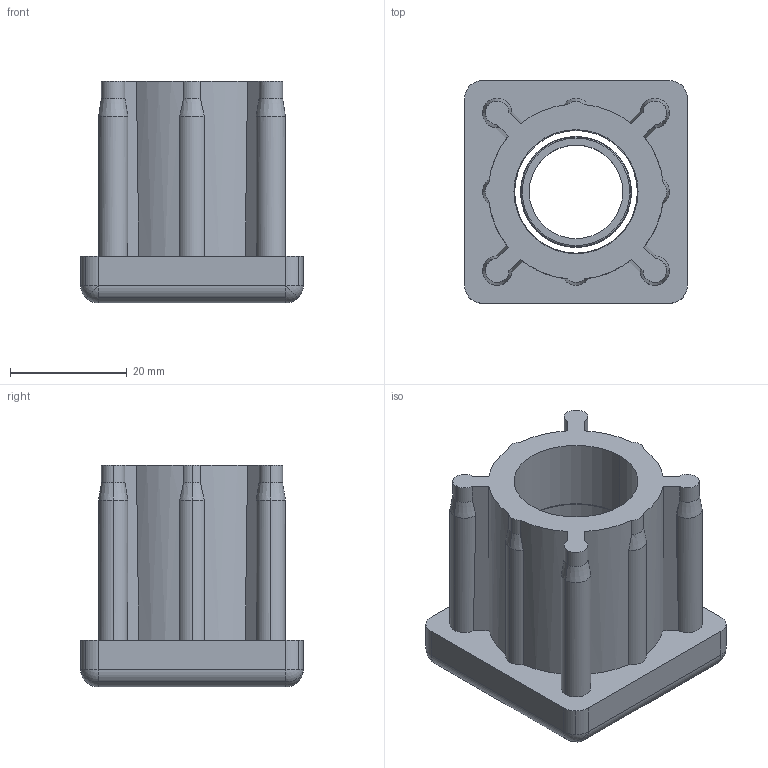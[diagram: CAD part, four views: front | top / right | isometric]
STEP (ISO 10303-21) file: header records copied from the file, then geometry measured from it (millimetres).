
FILE_DESCRIPTION (( 'STEP AP214' ), '1' );
FILE_NAME ('42006860516.STEP', '2020-02-26T11:35:20', ( '' ), ( '' ), 'SwSTEP 2.0', 'SolidWorks 2018', '' );
FILE_SCHEMA (( 'AUTOMOTIVE_DESIGN' ));
Length unit declared in the file: millimetre
Products named in the file (4): 42006860516.stp; BC_M16.stp; Component1.stp; 42006860516
Assembly tree (3 placements, depth 3):
  42006860516
    42006860516.stp
      Component1.stp
      BC_M16.stp
Bounding box: 38.1 x 38.1 x 38 mm (x, y, z)
Volume: 21545.6 mm3; surface area: 12094 mm2
Topology: 2 solids, 2 shells, 129 faces, 312 edges, 190 vertices
Faces by surface type: cylinder 70, cone 26, plane 19, sphere 8, torus 6
Entity records: 3974 total; most frequent: CARTESIAN_POINT 746, DIRECTION 724, ORIENTED_EDGE 624, EDGE_CURVE 312, AXIS2_PLACEMENT_3D 308, VERTEX_POINT 190, CIRCLE 172, EDGE_LOOP 136
